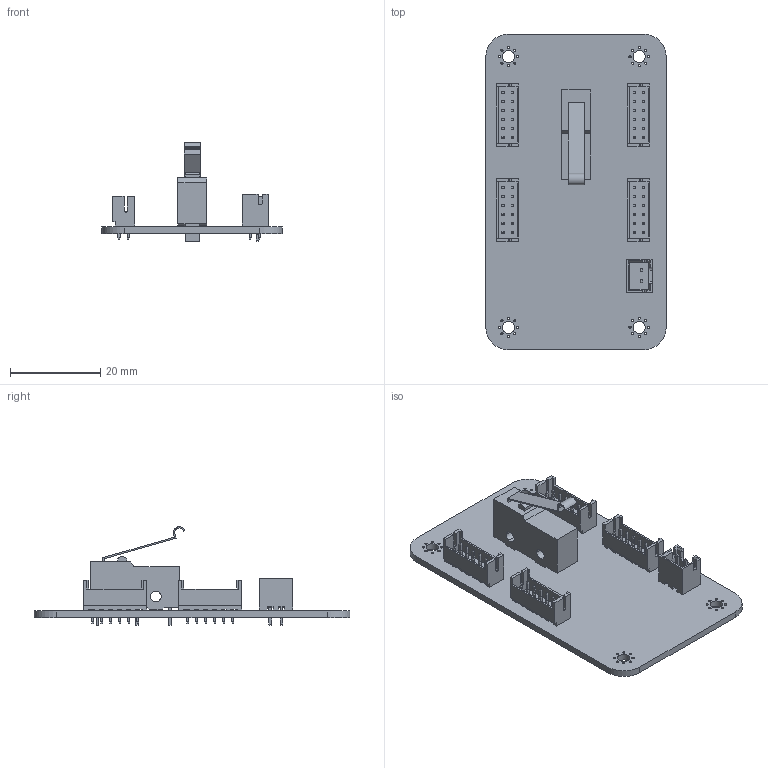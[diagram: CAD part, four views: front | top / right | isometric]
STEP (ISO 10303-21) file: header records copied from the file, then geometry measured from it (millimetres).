
FILE_DESCRIPTION(('KiCad electronic assembly'),'2;1');
FILE_NAME('fixed RBF board.step','2026-07-25T23:27:38',('Pcbnew'),( 'Kicad'),'Open CASCADE STEP processor 7.9','KiCad to STEP converter' ,'Unknown');
FILE_SCHEMA(('AUTOMOTIVE_DESIGN { 1 0 10303 214 1 1 1 1 }'));
Length unit declared in the file: millimetre
Products named in the file (10): fixed RBF board 1; B2B-XH-A; BxB-XH-A_02; DF11-12DP-2DSA; DF11-12DP-2DSAÈª; ss-5gl13; RBF PCB_PCB
Assembly tree (12 placements, depth 4):
  fixed RBF board 1
    B2B-XH-A
      B2B-XH-A
        BxB-XH-A_02
    DF11-12DP-2DSA  x4
      DF11-12DP-2DSAÈª
        DF11-12DP-2DSAÈª
    ss-5gl13
      ss-5gl13
    RBF PCB_PCB
Bounding box: 40 x 70 x 21.9 mm (x, y, z)
Volume: 6159.6 mm3; surface area: 10097 mm2
Topology: 9 solids, 9 shells, 1431 faces, 3516 edges, 2204 vertices
Faces by surface type: plane 1301, cylinder 114, bspline 16
Full cylindrical faces by diameter (mm): 0.5 x32, 0.85 x48, 1.05 x2, 2.7 x4
Entity records: 18225 total; most frequent: CARTESIAN_POINT 3399, ORIENTED_EDGE 2892, DIRECTION 2814, EDGE_CURVE 1446, LINE 1208, VECTOR 1208, VERTEX_POINT 920, AXIS2_PLACEMENT_3D 803
